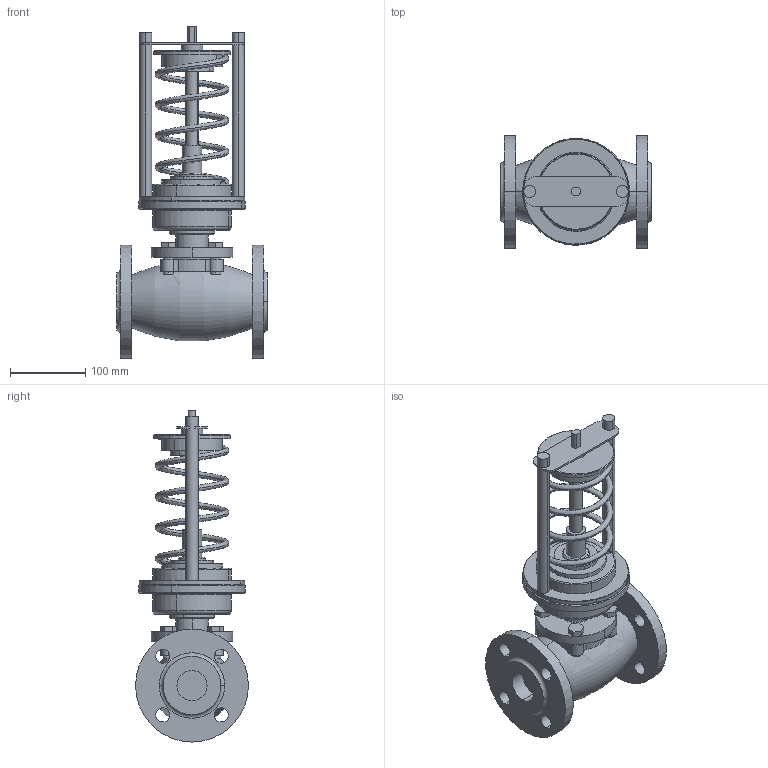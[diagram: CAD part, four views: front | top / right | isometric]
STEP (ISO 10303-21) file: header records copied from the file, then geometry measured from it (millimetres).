
FILE_DESCRIPTION (( 'STEP AP214' ), '1' );
FILE_NAME ('RDT, RDT-B DN-40.stp', '2025-12-12T05:54:54', ( '' ), ( '' ), 'SwSTEP 2.0', 'SolidWorks 2023', '' );
FILE_SCHEMA (( 'AUTOMOTIVE_DESIGN' ));
Length unit declared in the file: millimetre
Products named in the file (1): RDT, RDT-B DN-40
Bounding box: 200 x 150 x 441 mm (x, y, z)
Volume: 2908165.3 mm3; surface area: 305458.5 mm2
Topology: 1 solids, 1 shells, 212 faces, 532 edges, 344 vertices
Faces by surface type: cylinder 96, plane 85, cone 14, torus 13, bspline 4
Entity records: 21234 total; most frequent: CARTESIAN_POINT 15917, DIRECTION 1166, ORIENTED_EDGE 1064, EDGE_CURVE 532, AXIS2_PLACEMENT_3D 466, VERTEX_POINT 344, EDGE_LOOP 264, CIRCLE 257
